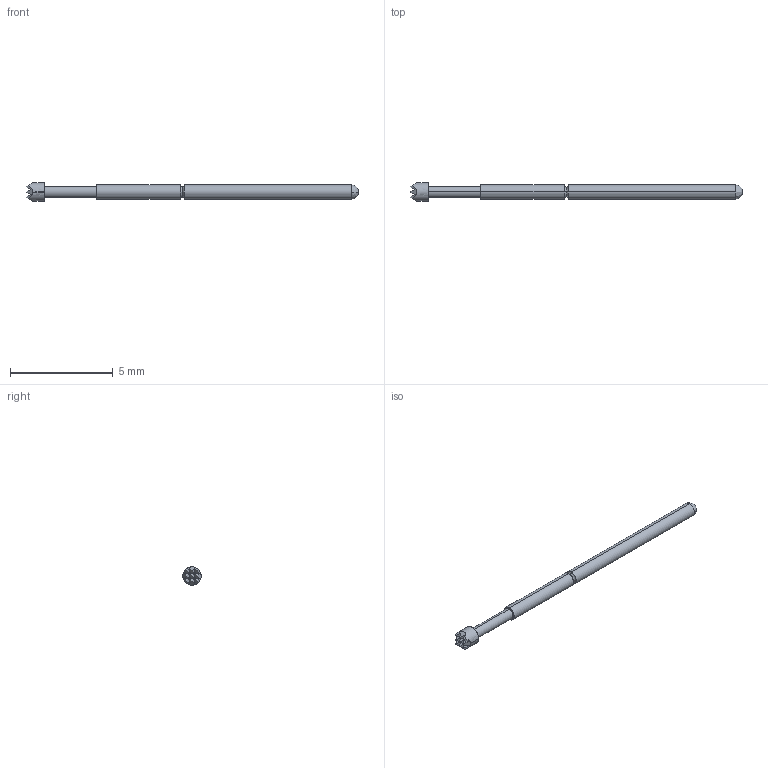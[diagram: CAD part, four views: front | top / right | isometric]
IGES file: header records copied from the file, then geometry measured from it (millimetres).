
Start section: SolidWorks IGES file using analytic representation for surfaces
Global section: file name: F:\OneDrive\Desktop\Coda\24.8\PA1 series, two locations RTP\Completed\PA1H.IGS; native system: SolidWorks 2021; preprocessor: SolidWorks 2021; author: Georg; date: 210824.145023; units: inch
Bounding box: 16.13 x 0.89 x 0.89 mm (x, y, z)
Surface area: 35.4 mm2 (no closed solid volume)
Topology: 0 solids, 0 shells, 45 faces, 266 edges, 266 vertices
Faces by surface type: bspline 37, revolution 8
